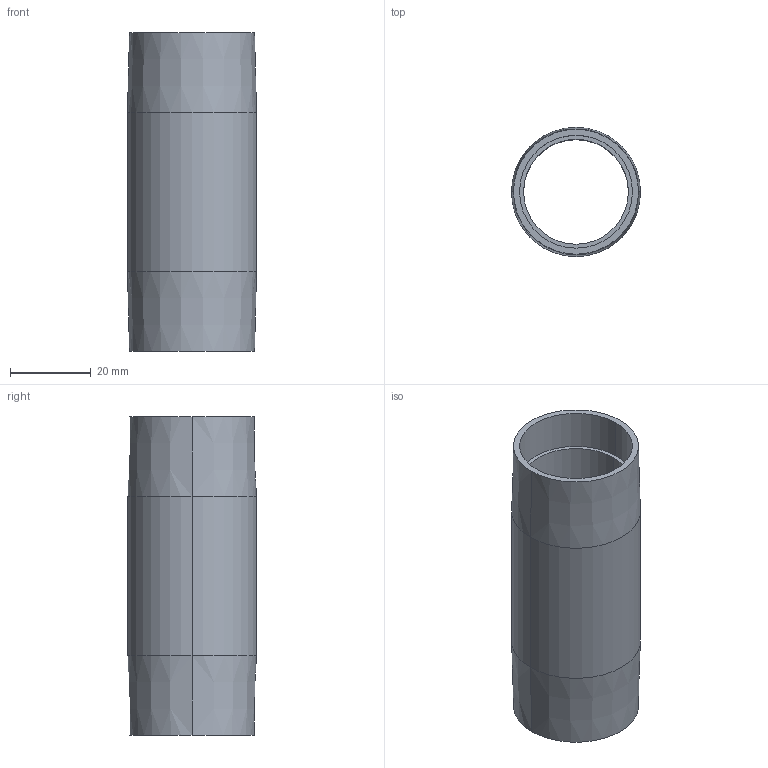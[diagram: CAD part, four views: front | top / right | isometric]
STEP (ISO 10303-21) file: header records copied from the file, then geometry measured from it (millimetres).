
FILE_DESCRIPTION (( 'STEP AP214' ), '1' );
FILE_NAME ('084.030.110.STEP', '2021-02-05T15:34:37', ( '' ), ( '' ), 'SwSTEP 2.0', 'SolidWorks 2018', '' );
FILE_SCHEMA (( 'AUTOMOTIVE_DESIGN' ));
Length unit declared in the file: millimetre
Products named in the file (1): 084.030.110
Bounding box: 32 x 32 x 79 mm (x, y, z)
Volume: 18913.3 mm3; surface area: 14907.3 mm2
Topology: 1 solids, 1 shells, 16 faces, 32 edges, 20 vertices
Faces by surface type: cylinder 8, cone 4, plane 4
Entity records: 462 total; most frequent: DIRECTION 86, CARTESIAN_POINT 69, ORIENTED_EDGE 64, AXIS2_PLACEMENT_3D 37, EDGE_CURVE 32, VERTEX_POINT 20, CIRCLE 20, EDGE_LOOP 20
